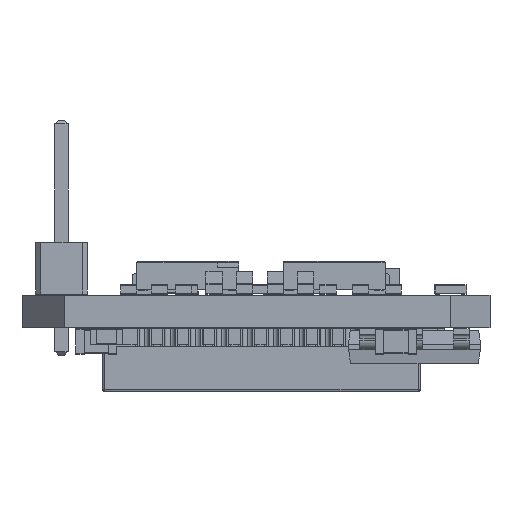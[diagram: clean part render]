
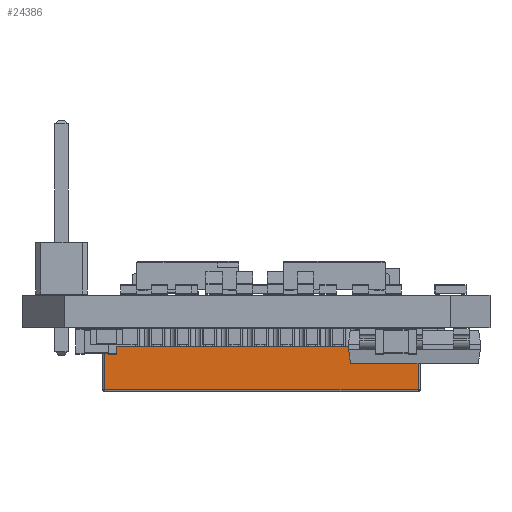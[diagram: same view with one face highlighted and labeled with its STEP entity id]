
A CAD part, left-side view. The second image highlights one B-rep face of the part: STEP entity #24386.
In plain terms, the highlighted free-form (B-spline) face has degree [1, 1] with [2, 2] control points.
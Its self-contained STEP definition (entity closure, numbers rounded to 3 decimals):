
#22591 = VERTEX_POINT('',#22592);
#22592 = CARTESIAN_POINT('',(-7.7,-8.7,3.));
#22606 = ( BOUNDED_SURFACE() B_SPLINE_SURFACE(2,1,(
    (#22607,#22608)
    ,(#22609,#22610)
    ,(#22611,#22612
)),.UNSPECIFIED.,.F.,.F.,.F.) B_SPLINE_SURFACE_WITH_KNOTS((3,3),(2,2),(
    0.,1.571),(0.1,2.2),.PIECEWISE_BEZIER_KNOTS.) 
GEOMETRIC_REPRESENTATION_ITEM() RATIONAL_B_SPLINE_SURFACE((
    (1.,1.)
    ,(0.707,0.707)
,(1.,1.))) REPRESENTATION_ITEM('') SURFACE() );
#22607 = CARTESIAN_POINT('',(-7.8,-8.6,0.9));
#22608 = CARTESIAN_POINT('',(-7.8,-8.6,3.));
#22609 = CARTESIAN_POINT('',(-7.8,-8.7,0.9));
#22610 = CARTESIAN_POINT('',(-7.8,-8.7,3.));
#22611 = CARTESIAN_POINT('',(-7.7,-8.7,0.9));
#22612 = CARTESIAN_POINT('',(-7.7,-8.7,3.));
#22634 = ( BOUNDED_SURFACE() B_SPLINE_SURFACE(2,1,(
    (#22635,#22636)
    ,(#22637,#22638)
    ,(#22639,#22640
)),.UNSPECIFIED.,.F.,.F.,.F.) B_SPLINE_SURFACE_WITH_KNOTS((3,3),(2,2),(
    4.712,6.283),(0.1,15.5),
.PIECEWISE_BEZIER_KNOTS.) GEOMETRIC_REPRESENTATION_ITEM() 
RATIONAL_B_SPLINE_SURFACE((
    (1.,1.)
    ,(0.707,0.707)
,(1.,1.))) REPRESENTATION_ITEM('') SURFACE() );
#22635 = CARTESIAN_POINT('',(-7.7,-8.6,3.1));
#22636 = CARTESIAN_POINT('',(7.7,-8.6,3.1));
#22637 = CARTESIAN_POINT('',(-7.7,-8.7,3.1));
#22638 = CARTESIAN_POINT('',(7.7,-8.7,3.1));
#22639 = CARTESIAN_POINT('',(-7.7,-8.7,3.));
#22640 = CARTESIAN_POINT('',(7.7,-8.7,3.));
#22818 = B_SPLINE_SURFACE_WITH_KNOTS('',1,1,(
    (#22819,#22820)
    ,(#22821,#22822
    )),.UNSPECIFIED.,.F.,.F.,.F.,(2,2),(2,2),(0.,15.8),(0.,17.6),
  .PIECEWISE_BEZIER_KNOTS.);
#22819 = CARTESIAN_POINT('',(-7.9,-8.8,0.9));
#22820 = CARTESIAN_POINT('',(-7.9,8.8,0.9));
#22821 = CARTESIAN_POINT('',(7.9,-8.8,0.9));
#22822 = CARTESIAN_POINT('',(7.9,8.8,0.9));
#22909 = VERTEX_POINT('',#22910);
#22910 = CARTESIAN_POINT('',(-7.7,-8.7,0.9));
#22931 = EDGE_CURVE('',#22909,#22591,#22932,.T.);
#22932 = SURFACE_CURVE('',#22933,(#22936,#22943),.PCURVE_S1.);
#22933 = B_SPLINE_CURVE_WITH_KNOTS('',1,(#22934,#22935),.UNSPECIFIED.,
  .F.,.F.,(2,2),(0.1,2.2),.PIECEWISE_BEZIER_KNOTS.);
#22934 = CARTESIAN_POINT('',(-7.7,-8.7,0.9));
#22935 = CARTESIAN_POINT('',(-7.7,-8.7,3.));
#22936 = PCURVE('',#22606,#22937);
#22937 = DEFINITIONAL_REPRESENTATION('',(#22938),#22942);
#22938 = B_SPLINE_CURVE_WITH_KNOTS('',2,(#22939,#22940,#22941),
  .UNSPECIFIED.,.F.,.F.,(3,3),(0.1,2.2),.PIECEWISE_BEZIER_KNOTS.);
#22939 = CARTESIAN_POINT('',(1.571,0.1));
#22940 = CARTESIAN_POINT('',(1.571,1.15));
#22941 = CARTESIAN_POINT('',(1.571,2.2));
#22942 = ( GEOMETRIC_REPRESENTATION_CONTEXT(2) 
PARAMETRIC_REPRESENTATION_CONTEXT() REPRESENTATION_CONTEXT('2D SPACE',''
  ) );
#22943 = PCURVE('',#22944,#22949);
#22944 = B_SPLINE_SURFACE_WITH_KNOTS('',1,1,(
    (#22945,#22946)
    ,(#22947,#22948
  )),.UNSPECIFIED.,.F.,.F.,.F.,(2,2),(2,2),(0.1,2.2),(0.1,15.5),
  .PIECEWISE_BEZIER_KNOTS.);
#22945 = CARTESIAN_POINT('',(-7.7,-8.7,0.9));
#22946 = CARTESIAN_POINT('',(7.7,-8.7,0.9));
#22947 = CARTESIAN_POINT('',(-7.7,-8.7,3.));
#22948 = CARTESIAN_POINT('',(7.7,-8.7,3.));
#22949 = DEFINITIONAL_REPRESENTATION('',(#22950),#22953);
#22950 = B_SPLINE_CURVE_WITH_KNOTS('',1,(#22951,#22952),.UNSPECIFIED.,
  .F.,.F.,(2,2),(0.1,2.2),.PIECEWISE_BEZIER_KNOTS.);
#22951 = CARTESIAN_POINT('',(0.1,0.1));
#22952 = CARTESIAN_POINT('',(2.2,0.1));
#22953 = ( GEOMETRIC_REPRESENTATION_CONTEXT(2) 
PARAMETRIC_REPRESENTATION_CONTEXT() REPRESENTATION_CONTEXT('2D SPACE',''
  ) );
#22959 = EDGE_CURVE('',#22591,#22960,#22962,.T.);
#22960 = VERTEX_POINT('',#22961);
#22961 = CARTESIAN_POINT('',(7.7,-8.7,3.));
#22962 = SURFACE_CURVE('',#22963,(#22966,#22973),.PCURVE_S1.);
#22963 = B_SPLINE_CURVE_WITH_KNOTS('',1,(#22964,#22965),.UNSPECIFIED.,
  .F.,.F.,(2,2),(0.1,15.5),.PIECEWISE_BEZIER_KNOTS.);
#22964 = CARTESIAN_POINT('',(-7.7,-8.7,3.));
#22965 = CARTESIAN_POINT('',(7.7,-8.7,3.));
#22966 = PCURVE('',#22634,#22967);
#22967 = DEFINITIONAL_REPRESENTATION('',(#22968),#22972);
#22968 = B_SPLINE_CURVE_WITH_KNOTS('',2,(#22969,#22970,#22971),
  .UNSPECIFIED.,.F.,.F.,(3,3),(0.1,15.5),.PIECEWISE_BEZIER_KNOTS.);
#22969 = CARTESIAN_POINT('',(6.283,0.1));
#22970 = CARTESIAN_POINT('',(6.283,7.8));
#22971 = CARTESIAN_POINT('',(6.283,15.5));
#22972 = ( GEOMETRIC_REPRESENTATION_CONTEXT(2) 
PARAMETRIC_REPRESENTATION_CONTEXT() REPRESENTATION_CONTEXT('2D SPACE',''
  ) );
#22973 = PCURVE('',#22944,#22974);
#22974 = DEFINITIONAL_REPRESENTATION('',(#22975),#22978);
#22975 = B_SPLINE_CURVE_WITH_KNOTS('',1,(#22976,#22977),.UNSPECIFIED.,
  .F.,.F.,(2,2),(0.1,15.5),.PIECEWISE_BEZIER_KNOTS.);
#22976 = CARTESIAN_POINT('',(2.2,0.1));
#22977 = CARTESIAN_POINT('',(2.2,15.5));
#22978 = ( GEOMETRIC_REPRESENTATION_CONTEXT(2) 
PARAMETRIC_REPRESENTATION_CONTEXT() REPRESENTATION_CONTEXT('2D SPACE',''
  ) );
#24314 = VERTEX_POINT('',#24315);
#24315 = CARTESIAN_POINT('',(7.7,-8.7,0.9));
#24329 = ( BOUNDED_SURFACE() B_SPLINE_SURFACE(2,1,(
    (#24330,#24331)
    ,(#24332,#24333)
    ,(#24334,#24335
)),.UNSPECIFIED.,.F.,.F.,.F.) B_SPLINE_SURFACE_WITH_KNOTS((3,3),(2,2),(
    0.,1.571),(0.1,2.2),.PIECEWISE_BEZIER_KNOTS.) 
GEOMETRIC_REPRESENTATION_ITEM() RATIONAL_B_SPLINE_SURFACE((
    (1.,1.)
    ,(0.707,0.707)
,(1.,1.))) REPRESENTATION_ITEM('') SURFACE() );
#24330 = CARTESIAN_POINT('',(7.7,-8.7,0.9));
#24331 = CARTESIAN_POINT('',(7.7,-8.7,3.));
#24332 = CARTESIAN_POINT('',(7.8,-8.7,0.9));
#24333 = CARTESIAN_POINT('',(7.8,-8.7,3.));
#24334 = CARTESIAN_POINT('',(7.8,-8.6,0.9));
#24335 = CARTESIAN_POINT('',(7.8,-8.6,3.));
#24343 = EDGE_CURVE('',#22909,#24314,#24344,.T.);
#24344 = SURFACE_CURVE('',#24345,(#24348,#24354),.PCURVE_S1.);
#24345 = B_SPLINE_CURVE_WITH_KNOTS('',1,(#24346,#24347),.UNSPECIFIED.,
  .F.,.F.,(2,2),(0.15,15.55),.PIECEWISE_BEZIER_KNOTS.);
#24346 = CARTESIAN_POINT('',(-7.7,-8.7,0.9));
#24347 = CARTESIAN_POINT('',(7.7,-8.7,0.9));
#24348 = PCURVE('',#22818,#24349);
#24349 = DEFINITIONAL_REPRESENTATION('',(#24350),#24353);
#24350 = B_SPLINE_CURVE_WITH_KNOTS('',1,(#24351,#24352),.UNSPECIFIED.,
  .F.,.F.,(2,2),(0.15,15.55),.PIECEWISE_BEZIER_KNOTS.);
#24351 = CARTESIAN_POINT('',(0.2,0.1));
#24352 = CARTESIAN_POINT('',(15.6,0.1));
#24353 = ( GEOMETRIC_REPRESENTATION_CONTEXT(2) 
PARAMETRIC_REPRESENTATION_CONTEXT() REPRESENTATION_CONTEXT('2D SPACE',''
  ) );
#24354 = PCURVE('',#22944,#24355);
#24355 = DEFINITIONAL_REPRESENTATION('',(#24356),#24359);
#24356 = B_SPLINE_CURVE_WITH_KNOTS('',1,(#24357,#24358),.UNSPECIFIED.,
  .F.,.F.,(2,2),(0.15,15.55),.PIECEWISE_BEZIER_KNOTS.);
#24357 = CARTESIAN_POINT('',(0.1,0.1));
#24358 = CARTESIAN_POINT('',(0.1,15.5));
#24359 = ( GEOMETRIC_REPRESENTATION_CONTEXT(2) 
PARAMETRIC_REPRESENTATION_CONTEXT() REPRESENTATION_CONTEXT('2D SPACE',''
  ) );
#24386 = ADVANCED_FACE('',(#24387),#22944,.F.);
#24387 = FACE_BOUND('',#24388,.F.);
#24388 = EDGE_LOOP('',(#24389,#24390,#24391,#24392));
#24389 = ORIENTED_EDGE('',*,*,#24343,.F.);
#24390 = ORIENTED_EDGE('',*,*,#22931,.T.);
#24391 = ORIENTED_EDGE('',*,*,#22959,.T.);
#24392 = ORIENTED_EDGE('',*,*,#24393,.F.);
#24393 = EDGE_CURVE('',#24314,#22960,#24394,.T.);
#24394 = SURFACE_CURVE('',#24395,(#24398,#24404),.PCURVE_S1.);
#24395 = B_SPLINE_CURVE_WITH_KNOTS('',1,(#24396,#24397),.UNSPECIFIED.,
  .F.,.F.,(2,2),(0.1,2.2),.PIECEWISE_BEZIER_KNOTS.);
#24396 = CARTESIAN_POINT('',(7.7,-8.7,0.9));
#24397 = CARTESIAN_POINT('',(7.7,-8.7,3.));
#24398 = PCURVE('',#22944,#24399);
#24399 = DEFINITIONAL_REPRESENTATION('',(#24400),#24403);
#24400 = B_SPLINE_CURVE_WITH_KNOTS('',1,(#24401,#24402),.UNSPECIFIED.,
  .F.,.F.,(2,2),(0.1,2.2),.PIECEWISE_BEZIER_KNOTS.);
#24401 = CARTESIAN_POINT('',(0.1,15.5));
#24402 = CARTESIAN_POINT('',(2.2,15.5));
#24403 = ( GEOMETRIC_REPRESENTATION_CONTEXT(2) 
PARAMETRIC_REPRESENTATION_CONTEXT() REPRESENTATION_CONTEXT('2D SPACE',''
  ) );
#24404 = PCURVE('',#24329,#24405);
#24405 = DEFINITIONAL_REPRESENTATION('',(#24406),#24410);
#24406 = B_SPLINE_CURVE_WITH_KNOTS('',2,(#24407,#24408,#24409),
  .UNSPECIFIED.,.F.,.F.,(3,3),(0.1,2.2),.PIECEWISE_BEZIER_KNOTS.);
#24407 = CARTESIAN_POINT('',(0.,0.1));
#24408 = CARTESIAN_POINT('',(0.,1.15));
#24409 = CARTESIAN_POINT('',(0.,2.2));
#24410 = ( GEOMETRIC_REPRESENTATION_CONTEXT(2) 
PARAMETRIC_REPRESENTATION_CONTEXT() REPRESENTATION_CONTEXT('2D SPACE',''
  ) );
